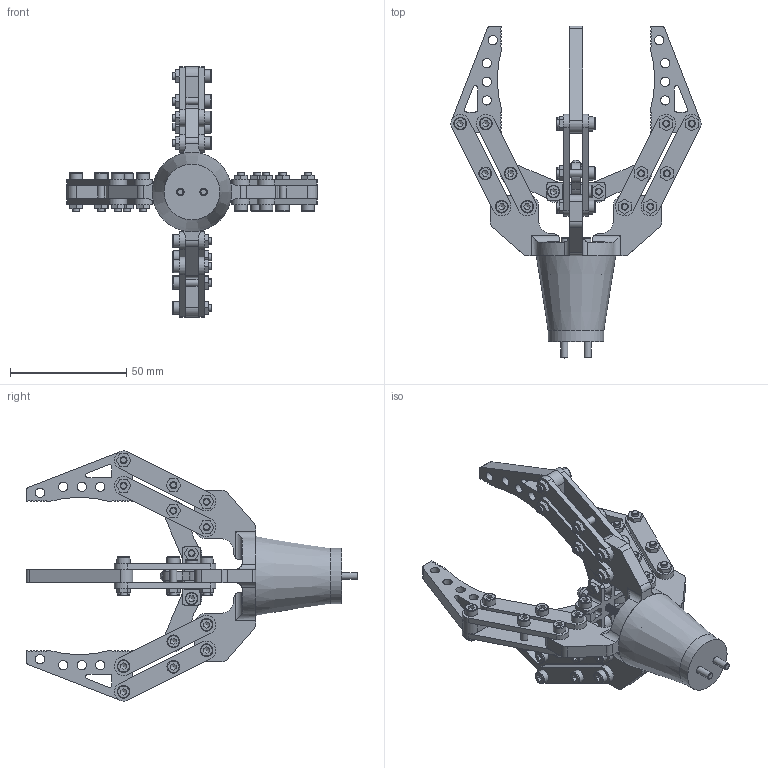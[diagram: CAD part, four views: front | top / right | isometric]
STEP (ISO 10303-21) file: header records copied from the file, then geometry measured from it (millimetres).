
FILE_DESCRIPTION(/* description */ (''),/* implementation_level */ '2;1');
FILE_NAME(/* name */ 'gripper4.stp',/* time_stamp */ '2025-12-04T20:07:16+01:00',/* author */ ('R5800u'),/* organization */ (''),/* preprocessor_version */ 'ST-DEVELOPER v20',/* originating_system */ 'Autodesk Inventor 2025',/* authorisation */ '');
FILE_SCHEMA (('AUTOMOTIVE_DESIGN { 1 0 10303 214 3 1 1 }'));
Length unit declared in the file: millimetre
Products named in the file (16): gripper4; nut M3; base_gripper2; motor; UN 5721 - M3; base_motore; UNI 7435-75 - 3; AS 1420 - 1973 - M3 x 10; chuck; link2; link; AS 1420 - 1973 - M3 x 12; AS 1420 - 1973 - M3 x 14; AS 1474 - M3; BS 4168 - M2,5 x 12; BS 4168 - M2 x 10
Assembly tree (96 placements, depth 2):
  gripper4
    nut M3
    base_gripper2
    motor
    AS 1474 - M3  x30
    UN 5721 - M3
    base_motore
    UNI 7435-75 - 3
    AS 1420 - 1973 - M3 x 10  x4
    chuck  x4
    link  x16
    link2  x4
    AS 1420 - 1973 - M3 x 12  x2
    AS 1420 - 1973 - M3 x 14  x24
    BS 4168 - M2,5 x 12  x4
    BS 4168 - M2 x 10  x2
Bounding box: 107.78 x 142.97 x 107.78 mm (x, y, z)
Volume: 68908.6 mm3; surface area: 58996 mm2
Topology: 96 solids, 96 shells, 1884 faces, 4771 edges, 3130 vertices
Faces by surface type: plane 1001, cylinder 489, cone 309, torus 78, bspline 6, sphere 1
Full cylindrical faces by diameter (mm): 0.6 x2, 0.8 x2, 1.5 x6, 2 x2, 2.459 x31, 2.5 x4, 2.7 x8, 3 x113, 3.2 x82, 3.4 x1, 3.8 x2, 4 x18, 4.5 x4, 4.6 x4, 5 x2, 5.5 x30, 20 x1, 24 x1
Entity records: 25108 total; most frequent: CARTESIAN_POINT 4733, DIRECTION 4375, ORIENTED_EDGE 3830, EDGE_CURVE 1915, AXIS2_PLACEMENT_3D 1696, VERTEX_POINT 1242, LINE 983, VECTOR 983
